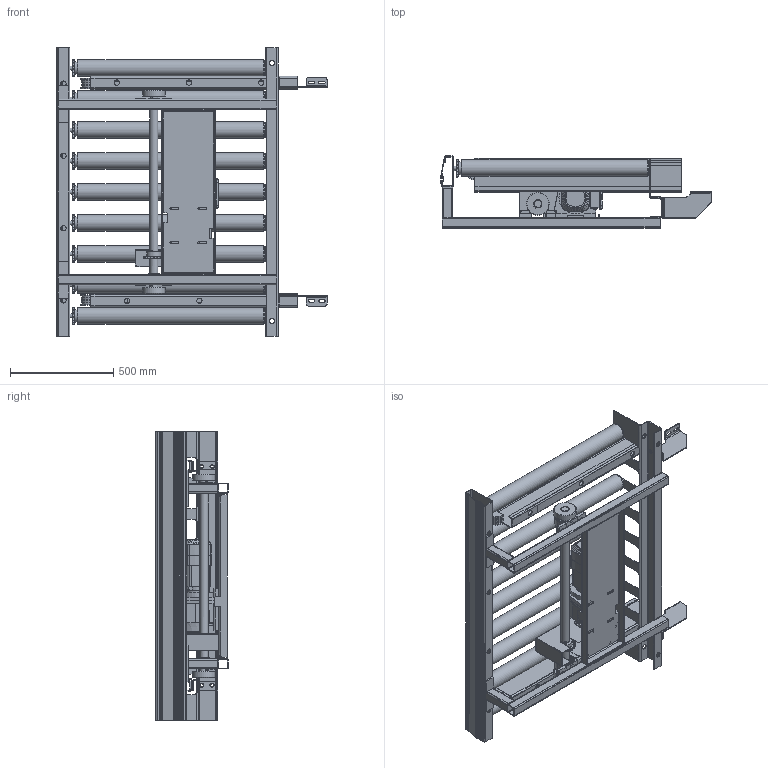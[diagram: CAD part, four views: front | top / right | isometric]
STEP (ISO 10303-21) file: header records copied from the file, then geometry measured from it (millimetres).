
FILE_DESCRIPTION(/* description */ (''),/* implementation_level */ '2;1');
FILE_NAME(/* name */ 'C:\Vault_Working_Folder\Designs\Hemsida\2021\IXVR 80-02.stp',/* time_stamp */ '2021-04-09T10:43:41+02:00',/* author */ ('Patrik.Karlsson'),/* organization */ (''),/* preprocessor_version */ 'ST-DEVELOPER v18.1',/* originating_system */ 'Autodesk Inventor 2021',/* authorisation */ '');
FILE_SCHEMA (('AUTOMOTIVE_DESIGN { 1 0 10303 214 3 1 1 }'));
Length unit declared in the file: millimetre
Products named in the file (1): IXVR 80-02_Substitute_2
Bounding box: 1308.5 x 350 x 1400 mm (x, y, z)
Volume: 65440215.3 mm3; surface area: 8202104 mm2
Topology: 5 solids, 5 shells, 2813 faces, 7874 edges, 5132 vertices
Faces by surface type: cylinder 1293, plane 967, torus 367, bspline 99, cone 76, sphere 11
Full cylindrical faces by diameter (mm): 11 x1, 13 x1, 14 x6, 20 x10, 22 x9, 24 x4, 26 x10, 28 x2, 35 x1, 40 x3, 53.333 x4, 60 x9, 70 x1, 80 x14, 89 x4, 110 x2, 160 x1
Entity records: 112529 total; most frequent: CARTESIAN_POINT 40665, ORIENTED_EDGE 15734, DIRECTION 14524, EDGE_CURVE 7867, AXIS2_PLACEMENT_3D 5400, VERTEX_POINT 5132, LINE 3724, VECTOR 3724
